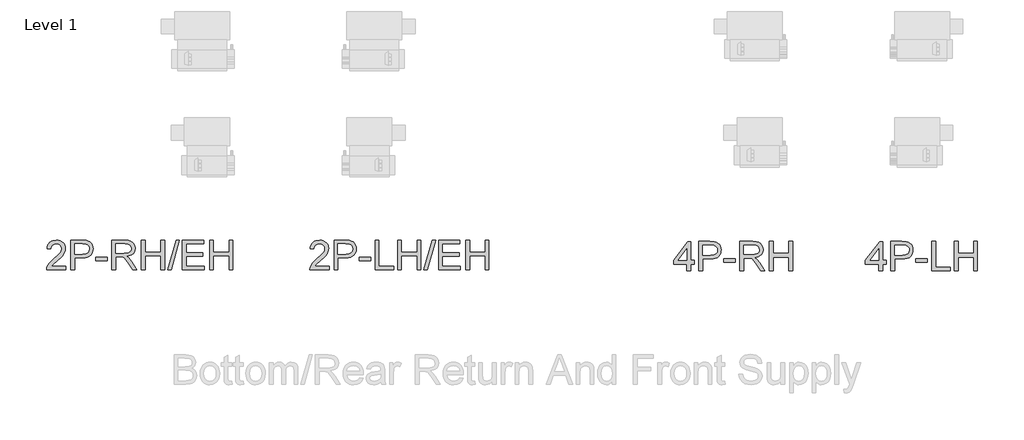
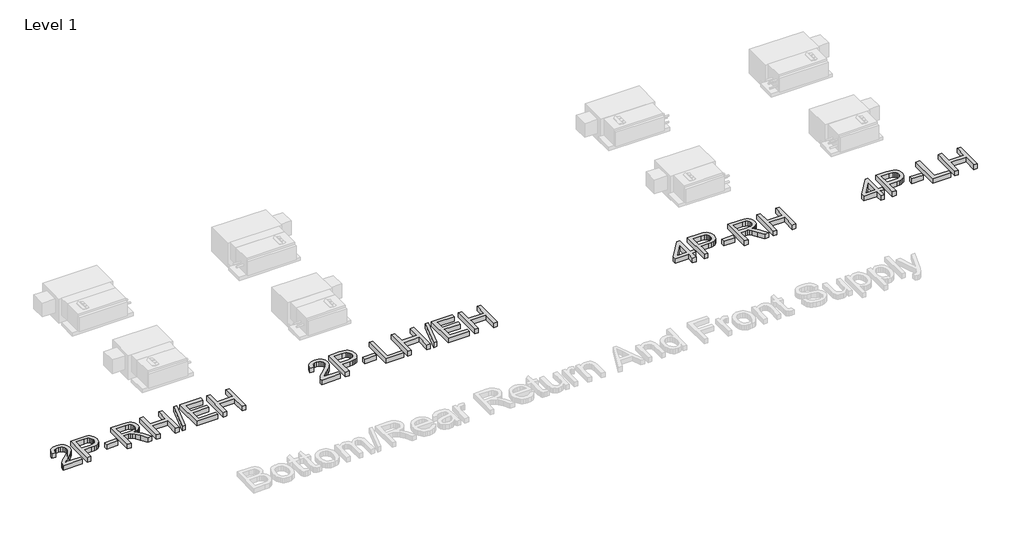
# One storey, part 3 of 3: 4 proxies.
"""IFC4 building model written with IfcOpenShell, lengths in millimetres."""

from ifc_helpers import new_model, si_unit, origin, origin_with_axes, place, context, project, spatial, polyline, outline, extrude, element, save

model = new_model("IFC4")

# Units and contexts
model_context = context("Model", 3, world=origin())
ifc_project = project(units=[si_unit("LENGTHUNIT", "METRE", prefix="MILLI")], contexts=[model_context])

# Site, building, storey
site = spatial("IfcSite", under=ifc_project)
building = spatial("IfcBuilding", under=site)
storey = spatial("IfcBuildingStorey", under=building, Name="Level 1", Elevation=0.0)

# Proxies
placement = place(None, origin())
element("IfcBuildingElementProxy", 1, Name="24\" Arial", ObjectType="24\" Arial", at=placement, inside=storey, context=model_context, shape_type="SweptSolid", body=[
    extrude(outline(polyline([(-12514.4409233, 806.3510541), (-12514.4409233, 877.7339668), (-12652.4478878, 877.7339668), (-12652.4478878, 915.8048536), (-12504.9232016, 1106.1592874), (-12476.3700366, 1106.1592874), (-12476.3700366, 915.8048536), (-12438.2991498, 915.8048536), (-12438.2991498, 877.7339668), (-12476.3700366, 877.7339668), (-12476.3700366, 806.3510541), (-12514.4409233, 806.3510541)]), holes=[polyline([(-12514.4409233, 915.8048536), (-12514.4409233, 1033.4379451), (-12605.6028514, 915.8048536), (-12514.4409233, 915.8048536)])]), origin_with_axes(), (0.0, 0.0, 1.0), 50.8),
    extrude(outline(polyline([(-12390.7105413, 806.3510541), (-12390.7105413, 1110.9181482), (-12277.8363107, 1110.9181482), (-12232.3297039, 1108.0182174), (-12212.0394827, 1102.5994364), (-12195.3369965, 1093.7788134), (-12181.8876378, 1081.1566786), (-12171.3567993, 1064.333362), (-12164.5531154, 1044.489284), (-12162.2852208, 1022.8048654), (-12163.8165144, 1004.1086767), (-12168.4103952, 986.9089267), (-12176.0668632, 971.2056154), (-12186.7859184, 956.9987428), (-12201.5016732, 945.2224211), (-12221.1482398, 936.8107628), (-12245.7256183, 931.7637678), (-12275.2338087, 930.0814361), (-12352.6396546, 930.0814361), (-12352.6396546, 806.3510541), (-12390.7105413, 806.3510541)]), holes=[polyline([(-12352.6396546, 968.1523229), (-12273.0030926, 968.1523229), (-12239.2449235, 971.6471113), (-12216.9377633, 982.1314766), (-12204.5015215, 998.9547933), (-12200.3561076, 1021.4664358), (-12202.8006005, 1038.5685919), (-12210.1340794, 1052.9938889), (-12221.4456686, 1063.8500402), (-12235.8244923, 1070.2447594), (-12273.895379, 1072.8472614), (-12352.6396546, 1072.8472614), (-12352.6396546, 968.1523229)])]), origin_with_axes(), (0.0, 0.0, 1.0), 50.8),
    extrude(outline(polyline([(-12133.7320557, 896.7694102), (-12133.7320557, 934.8402969), (-12014.7605346, 934.8402969), (-12014.7605346, 896.7694102), (-12133.7320557, 896.7694102)])), origin_with_axes(), (0.0, 0.0, 1.0), 50.8),
    extrude(outline(polyline([(-11967.1719262, 806.3510541), (-11967.1719262, 1110.9181482), (-11835.9314669, 1110.9181482), (-11800.6582698, 1108.8640305), (-11774.9957409, 1102.7016775), (-11756.2391371, 1091.3250258), (-11741.683715, 1073.6280121), (-11732.3425917, 1051.6833432), (-11729.2288839, 1027.5637262), (-11734.3874147, 997.5605957), (-11749.8630071, 972.6881121), (-11761.5858845, 962.5522962), (-11776.1203936, 954.4520086), (-11813.6243067, 944.3580186), (-11791.9863613, 928.0737917), (-11761.128123, 888.8875469), (-11710.3421549, 806.3510541), (-11754.5846894, 806.3510541), (-11794.2170773, 869.4803175), (-11822.8445996, 911.2690643), (-11842.9582224, 931.0109011), (-11861.0642008, 938.2607282), (-11883.1482894, 939.5991578), (-11929.1010394, 939.5991578), (-11929.1010394, 806.3510541), (-11967.1719262, 806.3510541)]), holes=[polyline([(-11929.1010394, 977.6700446), (-11843.8876874, 977.6700446), (-11819.4148737, 979.0177688), (-11800.4259036, 983.0609416), (-11786.1307318, 990.0691078), (-11775.739313, 1000.3118122), (-11769.4096562, 1012.7015807), (-11767.2997707, 1026.1509394), (-11771.3243542, 1044.7216503), (-11783.3981046, 1059.6860369), (-11804.1716476, 1069.5569553), (-11834.2956085, 1072.8472614), (-11929.1010394, 1072.8472614), (-11929.1010394, 977.6700446)])]), origin_with_axes(), (0.0, 0.0, 1.0), 50.8),
    extrude(outline(polyline([(-11662.6048321, 806.3510541), (-11662.6048321, 1110.9181482), (-11624.5339453, 1110.9181482), (-11624.5339453, 987.1877662), (-11462.7326766, 987.1877662), (-11462.7326766, 1110.9181482), (-11424.6617898, 1110.9181482), (-11424.6617898, 806.3510541), (-11462.7326766, 806.3510541), (-11462.7326766, 949.1168795), (-11624.5339453, 949.1168795), (-11624.5339453, 806.3510541), (-11662.6048321, 806.3510541)])), origin_with_axes(), (0.0, 0.0, 1.0), 50.8),
])
element("IfcBuildingElementProxy", 2, Name="24\" Arial", ObjectType="24\" Arial", at=placement, inside=storey, context=model_context, shape_type="SweptSolid", body=[
    extrude(outline(polyline([(-18928.5462438, 857.3695673), (-18928.5462438, 819.2986806), (-19128.4183993, 819.2986806), (-19124.3287532, 845.5467724), (-19114.9411566, 866.0600651), (-19101.2036638, 885.959911), (-19081.3317019, 906.7892218), (-19053.5406982, 930.0909096), (-19012.4583448, 966.5817058), (-18987.8089327, 993.5176018), (-18975.4842267, 1015.3786188), (-18971.3759914, 1036.6447782), (-18975.2518605, 1055.7081055), (-18986.8794677, 1071.5554839), (-19004.7530799, 1082.2350369), (-19027.3669635, 1085.7948879), (-19051.1147945, 1082.3186887), (-19069.5646749, 1071.8900913), (-19081.4711217, 1055.3270249), (-19085.5886517, 1033.4474186), (-19123.6595384, 1038.2062794), (-19120.3854979, 1057.859817), (-19114.4299509, 1075.0316831), (-19105.7928973, 1089.7218775), (-19094.4743372, 1101.9304004), (-19080.7345207, 1111.5271266), (-19064.833698, 1118.3819311), (-19026.5490343, 1123.8657746), (-19006.1449537, 1122.341452), (-18987.9855311, 1117.7684842), (-18972.0707665, 1110.1468711), (-18958.4006599, 1099.4766128), (-18947.4213545, 1086.5477545), (-18939.5789934, 1072.1503415), (-18934.8735768, 1056.2843738), (-18933.3051046, 1038.9498514), (-18934.9967309, 1020.7416319), (-18940.0716099, 1002.8494305), (-18949.0781258, 984.6505056), (-18962.5646631, 965.5221157), (-18984.0631888, 942.6851605), (-19017.1056698, 913.3605394), (-19060.902061, 876.7396181), (-19078.0785744, 857.3695673), (-18928.5462438, 857.3695673)])), origin_with_axes(), (0.0, 0.0, 1.0), 50.8),
    extrude(outline(polyline([(-18876.1987745, 819.2986806), (-18876.1987745, 1123.8657746), (-18763.3245438, 1123.8657746), (-18717.817937, 1120.9658438), (-18697.5277159, 1115.5470628), (-18680.8252297, 1106.7264399), (-18667.375871, 1094.104305), (-18656.8450324, 1077.2809884), (-18650.0413486, 1057.4369104), (-18647.7734539, 1035.7524918), (-18649.3047475, 1017.0563031), (-18653.8986284, 999.8565532), (-18661.5550964, 984.1532418), (-18672.2741516, 969.9463692), (-18686.9899063, 958.1700475), (-18706.6364729, 949.7583892), (-18731.2138514, 944.7113942), (-18760.7220418, 943.0290625), (-18838.1278877, 943.0290625), (-18838.1278877, 819.2986806), (-18876.1987745, 819.2986806)]), holes=[polyline([(-18838.1278877, 981.0999493), (-18758.4913258, 981.0999493), (-18724.7331567, 984.5947377), (-18702.4259965, 995.079103), (-18689.9897546, 1011.9024197), (-18685.8443407, 1034.4140622), (-18688.2888337, 1051.5162183), (-18695.6223126, 1065.9415153), (-18706.9339018, 1076.7976666), (-18721.3127254, 1083.1923858), (-18759.3836122, 1085.7948879), (-18838.1278877, 1085.7948879), (-18838.1278877, 981.0999493)])]), origin_with_axes(), (0.0, 0.0, 1.0), 50.8),
    extrude(outline(polyline([(-18619.2202889, 909.7170366), (-18619.2202889, 947.7879234), (-18500.2487678, 947.7879234), (-18500.2487678, 909.7170366), (-18619.2202889, 909.7170366)])), origin_with_axes(), (0.0, 0.0, 1.0), 50.8),
    extrude(outline(polyline([(-18452.6601593, 819.2986806), (-18452.6601593, 1123.8657746), (-18321.4197001, 1123.8657746), (-18286.146503, 1121.811657), (-18260.4839741, 1115.6493039), (-18241.7273702, 1104.2726522), (-18227.1719482, 1086.5756385), (-18217.8308248, 1064.6309696), (-18214.7171171, 1040.5113526), (-18219.8756479, 1010.5082222), (-18235.3512403, 985.6357385), (-18247.0741177, 975.4999226), (-18261.6086268, 967.399635), (-18299.1125399, 957.3056451), (-18277.4745945, 941.0214181), (-18246.6163562, 901.8351733), (-18195.8303881, 819.2986806), (-18240.0729225, 819.2986806), (-18279.7053105, 882.4279439), (-18308.3328327, 924.2166907), (-18328.4464555, 943.9585275), (-18346.5524339, 951.2083546), (-18368.6365225, 952.5467842), (-18414.5892725, 952.5467842), (-18414.5892725, 819.2986806), (-18452.6601593, 819.2986806)]), holes=[polyline([(-18414.5892725, 990.617671), (-18329.3759205, 990.617671), (-18304.9031069, 991.9653952), (-18285.9141367, 996.008568), (-18271.6189649, 1003.0167342), (-18261.2275461, 1013.2594386), (-18254.8978894, 1025.6492071), (-18252.7880038, 1039.0985658), (-18256.8125873, 1057.6692767), (-18268.8863378, 1072.6336633), (-18289.6598807, 1082.5045817), (-18319.7838417, 1085.7948879), (-18414.5892725, 1085.7948879), (-18414.5892725, 990.617671)])]), origin_with_axes(), (0.0, 0.0, 1.0), 50.8),
    extrude(outline(polyline([(-18148.0930652, 819.2986806), (-18148.0930652, 1123.8657746), (-18110.0221785, 1123.8657746), (-18110.0221785, 1000.1353927), (-17948.2209098, 1000.1353927), (-17948.2209098, 1123.8657746), (-17910.150023, 1123.8657746), (-17910.150023, 819.2986806), (-17948.2209098, 819.2986806), (-17948.2209098, 962.0645059), (-18110.0221785, 962.0645059), (-18110.0221785, 819.2986806), (-18148.0930652, 819.2986806)])), origin_with_axes(), (0.0, 0.0, 1.0), 50.8),
    extrude(outline(polyline([(-17876.8379971, 819.2986806), (-17791.1785019, 1123.8657746), (-17756.8254752, 1123.8657746), (-17842.4849704, 819.2986806), (-17876.8379971, 819.2986806)])), origin_with_axes(), (0.0, 0.0, 1.0), 50.8),
    extrude(outline(polyline([(-17724.5544501, 819.2986806), (-17724.5544501, 1123.8657746), (-17505.6468512, 1123.8657746), (-17505.6468512, 1085.7948879), (-17686.4835633, 1085.7948879), (-17686.4835633, 995.3765318), (-17515.1645729, 995.3765318), (-17515.1645729, 957.3056451), (-17686.4835633, 957.3056451), (-17686.4835633, 857.3695673), (-17500.8879903, 857.3695673), (-17500.8879903, 819.2986806), (-17724.5544501, 819.2986806)])), origin_with_axes(), (0.0, 0.0, 1.0), 50.8),
    extrude(outline(polyline([(-17443.7816602, 819.2986806), (-17443.7816602, 1123.8657746), (-17405.7107734, 1123.8657746), (-17405.7107734, 1000.1353927), (-17243.9095047, 1000.1353927), (-17243.9095047, 1123.8657746), (-17205.838618, 1123.8657746), (-17205.838618, 819.2986806), (-17243.9095047, 819.2986806), (-17243.9095047, 962.0645059), (-17405.7107734, 962.0645059), (-17405.7107734, 819.2986806), (-17443.7816602, 819.2986806)])), origin_with_axes(), (0.0, 0.0, 1.0), 50.8),
])
element("IfcBuildingElementProxy", 3, Name="24\" Arial", ObjectType="24\" Arial", at=placement, inside=storey, context=model_context, shape_type="SweptSolid", body=[
    extrude(outline(polyline([(-16210.7462438, 857.3695673), (-16210.7462438, 819.2986806), (-16410.6183993, 819.2986806), (-16406.5287532, 845.5467724), (-16397.1411566, 866.0600651), (-16383.4036638, 885.959911), (-16363.5317019, 906.7892218), (-16335.7406982, 930.0909096), (-16294.6583448, 966.5817058), (-16270.0089327, 993.5176018), (-16257.6842267, 1015.3786188), (-16253.5759914, 1036.6447782), (-16257.4518605, 1055.7081055), (-16269.0794677, 1071.5554839), (-16286.9530799, 1082.2350369), (-16309.5669635, 1085.7948879), (-16333.3147945, 1082.3186887), (-16351.7646749, 1071.8900913), (-16363.6711217, 1055.3270249), (-16367.7886517, 1033.4474186), (-16405.8595384, 1038.2062794), (-16402.5854979, 1057.859817), (-16396.6299509, 1075.0316831), (-16387.9928973, 1089.7218775), (-16376.6743372, 1101.9304004), (-16362.9345207, 1111.5271266), (-16347.033698, 1118.3819311), (-16308.7490343, 1123.8657746), (-16288.3449537, 1122.341452), (-16270.1855311, 1117.7684842), (-16254.2707665, 1110.1468711), (-16240.6006599, 1099.4766128), (-16229.6213545, 1086.5477545), (-16221.7789934, 1072.1503415), (-16217.0735768, 1056.2843738), (-16215.5051046, 1038.9498514), (-16217.1967309, 1020.7416319), (-16222.2716099, 1002.8494305), (-16231.2781258, 984.6505056), (-16244.7646631, 965.5221157), (-16266.2631888, 942.6851605), (-16299.3056698, 913.3605394), (-16343.102061, 876.7396181), (-16360.2785744, 857.3695673), (-16210.7462438, 857.3695673)])), origin_with_axes(), (0.0, 0.0, 1.0), 50.8),
    extrude(outline(polyline([(-16158.3987745, 819.2986806), (-16158.3987745, 1123.8657746), (-16045.5245438, 1123.8657746), (-16000.017937, 1120.9658438), (-15979.7277159, 1115.5470628), (-15963.0252297, 1106.7264399), (-15949.575871, 1094.104305), (-15939.0450324, 1077.2809884), (-15932.2413486, 1057.4369104), (-15929.9734539, 1035.7524918), (-15931.5047475, 1017.0563031), (-15936.0986284, 999.8565532), (-15943.7550964, 984.1532418), (-15954.4741516, 969.9463692), (-15969.1899063, 958.1700475), (-15988.8364729, 949.7583892), (-16013.4138514, 944.7113942), (-16042.9220418, 943.0290625), (-16120.3278877, 943.0290625), (-16120.3278877, 819.2986806), (-16158.3987745, 819.2986806)]), holes=[polyline([(-16120.3278877, 981.0999493), (-16040.6913258, 981.0999493), (-16006.9331567, 984.5947377), (-15984.6259965, 995.079103), (-15972.1897546, 1011.9024197), (-15968.0443407, 1034.4140622), (-15970.4888337, 1051.5162183), (-15977.8223126, 1065.9415153), (-15989.1339018, 1076.7976666), (-16003.5127254, 1083.1923858), (-16041.5836122, 1085.7948879), (-16120.3278877, 1085.7948879), (-16120.3278877, 981.0999493)])]), origin_with_axes(), (0.0, 0.0, 1.0), 50.8),
    extrude(outline(polyline([(-15901.4202889, 909.7170366), (-15901.4202889, 947.7879234), (-15782.4487678, 947.7879234), (-15782.4487678, 909.7170366), (-15901.4202889, 909.7170366)])), origin_with_axes(), (0.0, 0.0, 1.0), 50.8),
    extrude(outline(polyline([(-15734.8601593, 819.2986806), (-15734.8601593, 1123.8657746), (-15696.7892725, 1123.8657746), (-15696.7892725, 857.3695673), (-15544.5057255, 857.3695673), (-15544.5057255, 819.2986806), (-15734.8601593, 819.2986806)])), origin_with_axes(), (0.0, 0.0, 1.0), 50.8),
    extrude(outline(polyline([(-15501.6759779, 819.2986806), (-15501.6759779, 1123.8657746), (-15463.6050912, 1123.8657746), (-15463.6050912, 1000.1353927), (-15301.8038224, 1000.1353927), (-15301.8038224, 1123.8657746), (-15263.7329357, 1123.8657746), (-15263.7329357, 819.2986806), (-15301.8038224, 819.2986806), (-15301.8038224, 962.0645059), (-15463.6050912, 962.0645059), (-15463.6050912, 819.2986806), (-15501.6759779, 819.2986806)])), origin_with_axes(), (0.0, 0.0, 1.0), 50.8),
    extrude(outline(polyline([(-15230.4209098, 819.2986806), (-15144.7614145, 1123.8657746), (-15110.4083878, 1123.8657746), (-15196.067883, 819.2986806), (-15230.4209098, 819.2986806)])), origin_with_axes(), (0.0, 0.0, 1.0), 50.8),
    extrude(outline(polyline([(-15078.1373627, 819.2986806), (-15078.1373627, 1123.8657746), (-14859.2297639, 1123.8657746), (-14859.2297639, 1085.7948879), (-15040.066476, 1085.7948879), (-15040.066476, 995.3765318), (-14868.7474856, 995.3765318), (-14868.7474856, 957.3056451), (-15040.066476, 957.3056451), (-15040.066476, 857.3695673), (-14854.470903, 857.3695673), (-14854.470903, 819.2986806), (-15078.1373627, 819.2986806)])), origin_with_axes(), (0.0, 0.0, 1.0), 50.8),
    extrude(outline(polyline([(-14797.3645729, 819.2986806), (-14797.3645729, 1123.8657746), (-14759.2936861, 1123.8657746), (-14759.2936861, 1000.1353927), (-14597.4924174, 1000.1353927), (-14597.4924174, 1123.8657746), (-14559.4215306, 1123.8657746), (-14559.4215306, 819.2986806), (-14597.4924174, 819.2986806), (-14597.4924174, 962.0645059), (-14759.2936861, 962.0645059), (-14759.2936861, 819.2986806), (-14797.3645729, 819.2986806)])), origin_with_axes(), (0.0, 0.0, 1.0), 50.8),
])
element("IfcBuildingElementProxy", 4, Name="24\" Arial", ObjectType="24\" Arial", at=placement, inside=storey, context=model_context, shape_type="SweptSolid", body=[
    extrude(outline(polyline([(-10533.2409233, 806.3510541), (-10533.2409233, 877.7339668), (-10671.2478878, 877.7339668), (-10671.2478878, 915.8048536), (-10523.7232016, 1106.1592874), (-10495.1700366, 1106.1592874), (-10495.1700366, 915.8048536), (-10457.0991498, 915.8048536), (-10457.0991498, 877.7339668), (-10495.1700366, 877.7339668), (-10495.1700366, 806.3510541), (-10533.2409233, 806.3510541)]), holes=[polyline([(-10533.2409233, 915.8048536), (-10533.2409233, 1033.4379451), (-10624.4028514, 915.8048536), (-10533.2409233, 915.8048536)])]), origin_with_axes(), (0.0, 0.0, 1.0), 50.8),
    extrude(outline(polyline([(-10409.5105413, 806.3510541), (-10409.5105413, 1110.9181482), (-10296.6363107, 1110.9181482), (-10251.1297039, 1108.0182174), (-10230.8394827, 1102.5994364), (-10214.1369965, 1093.7788134), (-10200.6876378, 1081.1566786), (-10190.1567993, 1064.333362), (-10183.3531154, 1044.489284), (-10181.0852208, 1022.8048654), (-10182.6165144, 1004.1086767), (-10187.2103952, 986.9089267), (-10194.8668632, 971.2056154), (-10205.5859184, 956.9987428), (-10220.3016732, 945.2224211), (-10239.9482398, 936.8107628), (-10264.5256183, 931.7637678), (-10294.0338087, 930.0814361), (-10371.4396546, 930.0814361), (-10371.4396546, 806.3510541), (-10409.5105413, 806.3510541)]), holes=[polyline([(-10371.4396546, 968.1523229), (-10291.8030926, 968.1523229), (-10258.0449235, 971.6471113), (-10235.7377633, 982.1314766), (-10223.3015215, 998.9547933), (-10219.1561076, 1021.4664358), (-10221.6006005, 1038.5685919), (-10228.9340794, 1052.9938889), (-10240.2456686, 1063.8500402), (-10254.6244923, 1070.2447594), (-10292.695379, 1072.8472614), (-10371.4396546, 1072.8472614), (-10371.4396546, 968.1523229)])]), origin_with_axes(), (0.0, 0.0, 1.0), 50.8),
    extrude(outline(polyline([(-10152.5320557, 896.7694102), (-10152.5320557, 934.8402969), (-10033.5605346, 934.8402969), (-10033.5605346, 896.7694102), (-10152.5320557, 896.7694102)])), origin_with_axes(), (0.0, 0.0, 1.0), 50.8),
    extrude(outline(polyline([(-9985.9719262, 806.3510541), (-9985.9719262, 1110.9181482), (-9947.9010394, 1110.9181482), (-9947.9010394, 844.4219409), (-9795.6174924, 844.4219409), (-9795.6174924, 806.3510541), (-9985.9719262, 806.3510541)])), origin_with_axes(), (0.0, 0.0, 1.0), 50.8),
    extrude(outline(polyline([(-9752.7877448, 806.3510541), (-9752.7877448, 1110.9181482), (-9714.716858, 1110.9181482), (-9714.716858, 987.1877662), (-9552.9155893, 987.1877662), (-9552.9155893, 1110.9181482), (-9514.8447025, 1110.9181482), (-9514.8447025, 806.3510541), (-9552.9155893, 806.3510541), (-9552.9155893, 949.1168795), (-9714.716858, 949.1168795), (-9714.716858, 806.3510541), (-9752.7877448, 806.3510541)])), origin_with_axes(), (0.0, 0.0, 1.0), 50.8),
])

save(model, "model.ifc")
